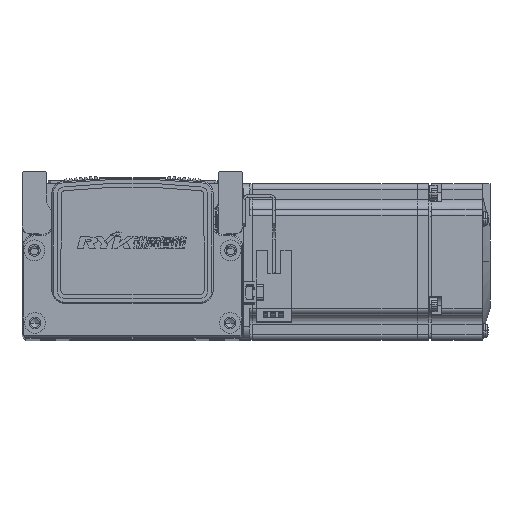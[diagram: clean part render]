
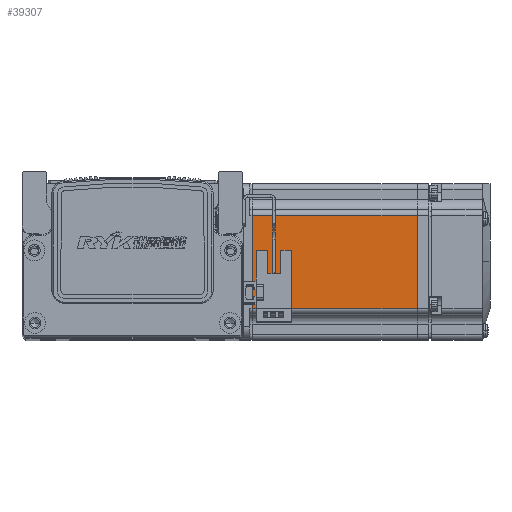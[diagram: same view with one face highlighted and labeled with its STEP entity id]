
A CAD part, top view. The second image highlights one B-rep face of the part: STEP entity #39307.
In plain terms, the highlighted planar face has unit normal (0, 0, 1) as drawn and (0, 0, -1) by its records, which use the part's own axes.
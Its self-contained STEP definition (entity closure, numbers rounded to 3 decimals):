
#6153 = VERTEX_POINT ( 'NONE', #48826 ) ;
#6159 = VERTEX_POINT ( 'NONE', #48797 ) ;
#6177 = VERTEX_POINT ( 'NONE', #48833 ) ;
#6206 = VERTEX_POINT ( 'NONE', #48880 ) ;
#7317 = AXIS2_PLACEMENT_3D ( 'NONE', #12429, #12473, #12458 ) ;
#10440 = FACE_OUTER_BOUND ( 'NONE', #23402, .T. ) ;
#10749 = ORIENTED_EDGE ( 'NONE', *, *, #62692, .T. ) ;
#10791 = ORIENTED_EDGE ( 'NONE', *, *, #62754, .T. ) ;
#10809 = ORIENTED_EDGE ( 'NONE', *, *, #62735, .T. ) ;
#10825 = ORIENTED_EDGE ( 'NONE', *, *, #62685, .T. ) ;
#12426 = PLANE ( 'NONE',  #7317 ) ;
#12429 = CARTESIAN_POINT ( 'NONE',  ( -6.5, 25., -30. ) ) ;
#12458 = DIRECTION ( 'NONE',  ( -1., 0., 0. ) ) ;
#12473 = DIRECTION ( 'NONE',  ( 0., 0., -1. ) ) ;
#21068 = VECTOR ( 'NONE', #22959, 1000. ) ;
#21070 = VECTOR ( 'NONE', #23000, 1000. ) ;
#21087 = LINE ( 'NONE', #22955, #21068 ) ;
#21097 = LINE ( 'NONE', #23028, #21070 ) ;
#21125 = LINE ( 'NONE', #23081, #21148 ) ;
#21145 = VECTOR ( 'NONE', #23164, 1000. ) ;
#21148 = VECTOR ( 'NONE', #23051, 1000. ) ;
#21158 = LINE ( 'NONE', #23154, #21145 ) ;
#22955 = CARTESIAN_POINT ( 'NONE',  ( -6.5, -18., -30. ) ) ;
#22959 = DIRECTION ( 'NONE',  ( -1., 0., 0. ) ) ;
#23000 = DIRECTION ( 'NONE',  ( 0., 1., 0. ) ) ;
#23028 = CARTESIAN_POINT ( 'NONE',  ( -70.95, 25., -30. ) ) ;
#23051 = DIRECTION ( 'NONE',  ( 1., 0., 0. ) ) ;
#23081 = CARTESIAN_POINT ( 'NONE',  ( -6.5, 18., -30. ) ) ;
#23154 = CARTESIAN_POINT ( 'NONE',  ( -7.75, 25., -30. ) ) ;
#23164 = DIRECTION ( 'NONE',  ( 0., -1., 0. ) ) ;
#23402 = EDGE_LOOP ( 'NONE', ( #10791, #10825, #10749, #10809 ) ) ;
#39307 = ADVANCED_FACE ( 'NONE', ( #10440 ), #12426, .T. ) ;
#48797 = CARTESIAN_POINT ( 'NONE',  ( -7.75, -18., -30. ) ) ;
#48826 = CARTESIAN_POINT ( 'NONE',  ( -70.95, -18., -30. ) ) ;
#48833 = CARTESIAN_POINT ( 'NONE',  ( -7.75, 18., -30. ) ) ;
#48880 = CARTESIAN_POINT ( 'NONE',  ( -70.95, 18., -30. ) ) ;
#62685 = EDGE_CURVE ( 'NONE', #6159, #6153, #21087, .T. ) ;
#62692 = EDGE_CURVE ( 'NONE', #6153, #6206, #21097, .T. ) ;
#62735 = EDGE_CURVE ( 'NONE', #6206, #6177, #21125, .T. ) ;
#62754 = EDGE_CURVE ( 'NONE', #6177, #6159, #21158, .T. ) ;
